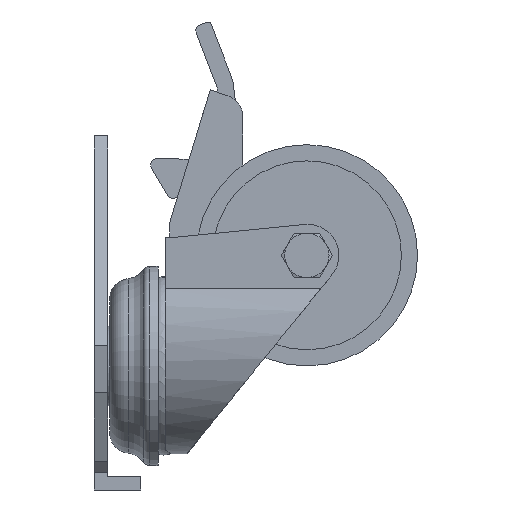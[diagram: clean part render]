
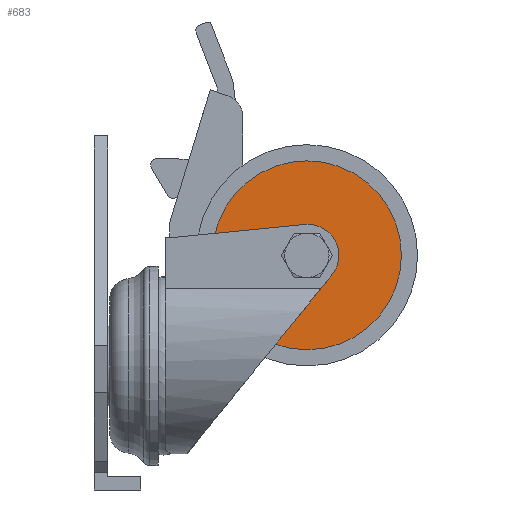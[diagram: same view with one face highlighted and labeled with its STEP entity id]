
A CAD part, left-side view. The second image highlights one B-rep face of the part: STEP entity #683.
In plain terms, the highlighted planar face has unit normal (-1, 0, 0).
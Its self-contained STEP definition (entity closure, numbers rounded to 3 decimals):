
#683 = ADVANCED_FACE( '', ( #1406, #1407 ), #1408, .T. );
#1406 = FACE_BOUND( '', #2113, .T. );
#1407 = FACE_OUTER_BOUND( '', #2114, .T. );
#1408 = PLANE( '', #2115 );
#2113 = EDGE_LOOP( '', ( #3713 ) );
#2114 = EDGE_LOOP( '', ( #3714 ) );
#2115 = AXIS2_PLACEMENT_3D( '', #3715, #3716, #3717 );
#3713 = ORIENTED_EDGE( '', *, *, #4169, .T. );
#3714 = ORIENTED_EDGE( '', *, *, #4422, .F. );
#3715 = CARTESIAN_POINT( '', ( -1.75, 21.35, 0. ) );
#3716 = DIRECTION( '', ( -1., 0., 0. ) );
#3717 = DIRECTION( '', ( 0., 0., 1. ) );
#4169 = EDGE_CURVE( '', #5020, #5020, #5021, .T. );
#4422 = EDGE_CURVE( '', #5354, #5354, #5355, .T. );
#5020 = VERTEX_POINT( '', #6294 );
#5021 = CIRCLE( '', #6295, 6.6 );
#5354 = VERTEX_POINT( '', #6840 );
#5355 = CIRCLE( '', #6841, 21.35 );
#6294 = CARTESIAN_POINT( '', ( -1.75, 0., -6.6 ) );
#6295 = AXIS2_PLACEMENT_3D( '', #7291, #7292, #7293 );
#6840 = CARTESIAN_POINT( '', ( -1.75, 0., -21.35 ) );
#6841 = AXIS2_PLACEMENT_3D( '', #7495, #7496, #7497 );
#7291 = CARTESIAN_POINT( '', ( -1.75, 0., 0. ) );
#7292 = DIRECTION( '', ( 1., 0., 0. ) );
#7293 = DIRECTION( '', ( 0., 0., -1. ) );
#7495 = CARTESIAN_POINT( '', ( -1.75, 0., 0. ) );
#7496 = DIRECTION( '', ( 1., 0., 0. ) );
#7497 = DIRECTION( '', ( 0., 0., -1. ) );
